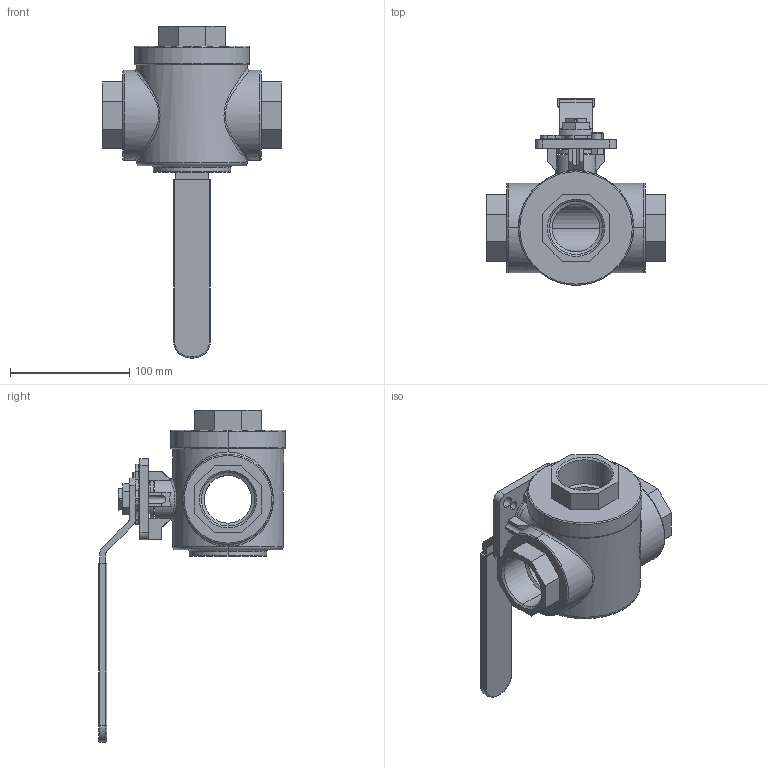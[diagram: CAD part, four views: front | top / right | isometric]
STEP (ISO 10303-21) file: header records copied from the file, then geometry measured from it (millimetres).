
FILE_DESCRIPTION (( 'STEP AP214' ), '1' );
FILE_NAME ('S57D DN40 G1 1_2 HB FB.STEP', '2020-06-25T06:56:36', ( '' ), ( '' ), 'SwSTEP 2.0', 'SolidWorks 2018', '' );
FILE_SCHEMA (( 'AUTOMOTIVE_DESIGN' ));
Length unit declared in the file: millimetre
Products named in the file (5): hex nut style 1 gradeab_din_Hexagon Nut ISO 4032 - M6 - D - N; S57D DN40 G1 1_2 HB FB; socket head cap screw_din_DIN 912 M6 x 12 --- 12N; S57D Hendel DN32 FB; S57D DN40-G1 1_2 FB
Assembly tree (4 placements, depth 2):
  S57D DN40 G1 1_2 HB FB
    S57D DN40-G1 1_2 FB
    S57D Hendel DN32 FB
    socket head cap screw_din_DIN 912 M6 x 12 --- 12N
    hex nut style 1 gradeab_din_Hexagon Nut ISO 4032 - M6 - D - N
Bounding box: 150 x 157 x 278.75 mm (x, y, z)
Volume: 795464.5 mm3; surface area: 121450 mm2
Topology: 4 solids, 4 shells, 350 faces, 898 edges, 559 vertices
Faces by surface type: plane 189, cylinder 101, cone 32, torus 22, bspline 6
Entity records: 13346 total; most frequent: CARTESIAN_POINT 4251, DIRECTION 1846, ORIENTED_EDGE 1792, EDGE_CURVE 896, AXIS2_PLACEMENT_3D 668, VERTEX_POINT 559, VECTOR 510, LINE 510
